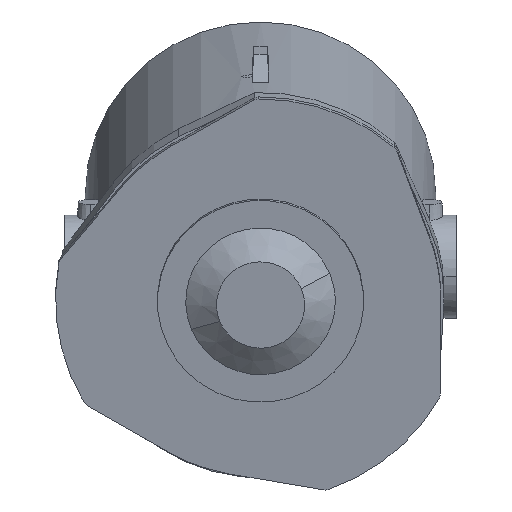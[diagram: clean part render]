
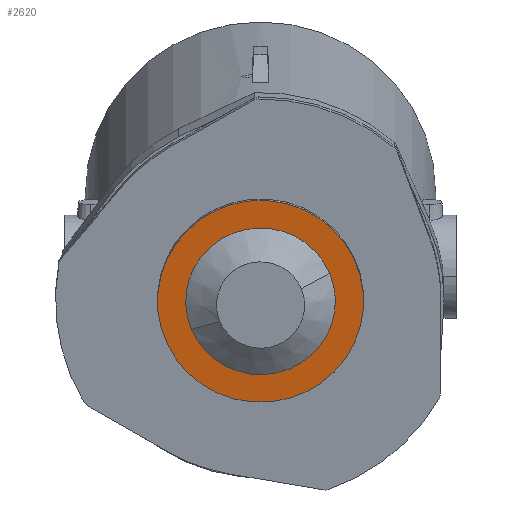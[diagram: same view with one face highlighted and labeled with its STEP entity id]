
A CAD part, left-side view. The second image highlights one B-rep face of the part: STEP entity #2620.
In plain terms, the highlighted planar face has unit normal (-0.98, 0, -0.2).
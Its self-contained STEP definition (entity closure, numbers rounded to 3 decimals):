
#191 = CIRCLE ( 'NONE', #1344, 72.608 ) ;
#203 = VERTEX_POINT ( 'NONE', #3161 ) ;
#597 = ORIENTED_EDGE ( 'NONE', *, *, #623, .T. ) ;
#607 = DIRECTION ( 'NONE',  ( 0.076, 0.924, -0.374 ) ) ;
#623 = EDGE_CURVE ( 'NONE', #1001, #3041, #5420, .T. ) ;
#689 = DIRECTION ( 'NONE',  ( 0.076, 0.924, -0.374 ) ) ;
#923 = CIRCLE ( 'NONE', #5623, 72.608 ) ;
#1001 = VERTEX_POINT ( 'NONE', #1213 ) ;
#1053 = DIRECTION ( 'NONE',  ( 0.076, 0.924, -0.374 ) ) ;
#1119 = DIRECTION ( 'NONE',  ( -0.98, 0., -0.199 ) ) ;
#1210 = DIRECTION ( 'NONE',  ( -0.98, 0., -0.199 ) ) ;
#1213 = CARTESIAN_POINT ( 'NONE',  ( -509.953, -293.698, 599.074 ) ) ;
#1307 = EDGE_CURVE ( 'NONE', #3041, #1001, #4945, .T. ) ;
#1344 = AXIS2_PLACEMENT_3D ( 'NONE', #2678, #1119, #689 ) ;
#1566 = ORIENTED_EDGE ( 'NONE', *, *, #1713, .F. ) ;
#1703 = EDGE_LOOP ( 'NONE', ( #597, #3281 ) ) ;
#1713 = EDGE_CURVE ( 'NONE', #4004, #203, #923, .T. ) ;
#1972 = DIRECTION ( 'NONE',  ( -0.98, 0., -0.199 ) ) ;
#2307 = CARTESIAN_POINT ( 'NONE',  ( -505.982, -126.876, 579.564 ) ) ;
#2453 = CARTESIAN_POINT ( 'NONE',  ( -511.504, -194., 606.689 ) ) ;
#2456 = AXIS2_PLACEMENT_3D ( 'NONE', #2870, #4713, #607 ) ;
#2615 = ORIENTED_EDGE ( 'NONE', *, *, #3697, .F. ) ;
#2620 = ADVANCED_FACE ( 'NONE', ( #3778, #3279 ), #3797, .T. ) ;
#2678 = CARTESIAN_POINT ( 'NONE',  ( -511.504, -194., 606.689 ) ) ;
#2771 = DIRECTION ( 'NONE',  ( 0.076, 0.924, -0.374 ) ) ;
#2810 = AXIS2_PLACEMENT_3D ( 'NONE', #5351, #1210, #4996 ) ;
#2870 = CARTESIAN_POINT ( 'NONE',  ( -497.857, -222.212, 539.652 ) ) ;
#2896 = DIRECTION ( 'NONE',  ( -0.98, 0., -0.199 ) ) ;
#3041 = VERTEX_POINT ( 'NONE', #3206 ) ;
#3161 = CARTESIAN_POINT ( 'NONE',  ( -517.025, -261.124, 633.814 ) ) ;
#3206 = CARTESIAN_POINT ( 'NONE',  ( -513.054, -94.302, 614.304 ) ) ;
#3279 = FACE_BOUND ( 'NONE', #5636, .T. ) ;
#3281 = ORIENTED_EDGE ( 'NONE', *, *, #1307, .T. ) ;
#3697 = EDGE_CURVE ( 'NONE', #203, #4004, #191, .T. ) ;
#3778 = FACE_OUTER_BOUND ( 'NONE', #1703, .T. ) ;
#3797 = PLANE ( 'NONE',  #2456 ) ;
#4004 = VERTEX_POINT ( 'NONE', #2307 ) ;
#4533 = CARTESIAN_POINT ( 'NONE',  ( -511.504, -194., 606.689 ) ) ;
#4713 = DIRECTION ( 'NONE',  ( -0.98, 0., -0.199 ) ) ;
#4945 = CIRCLE ( 'NONE', #5423, 100. ) ;
#4996 = DIRECTION ( 'NONE',  ( 0.076, 0.924, -0.374 ) ) ;
#5351 = CARTESIAN_POINT ( 'NONE',  ( -511.504, -194., 606.689 ) ) ;
#5420 = CIRCLE ( 'NONE', #2810, 100. ) ;
#5423 = AXIS2_PLACEMENT_3D ( 'NONE', #4533, #1972, #2771 ) ;
#5623 = AXIS2_PLACEMENT_3D ( 'NONE', #2453, #2896, #1053 ) ;
#5636 = EDGE_LOOP ( 'NONE', ( #2615, #1566 ) ) ;
